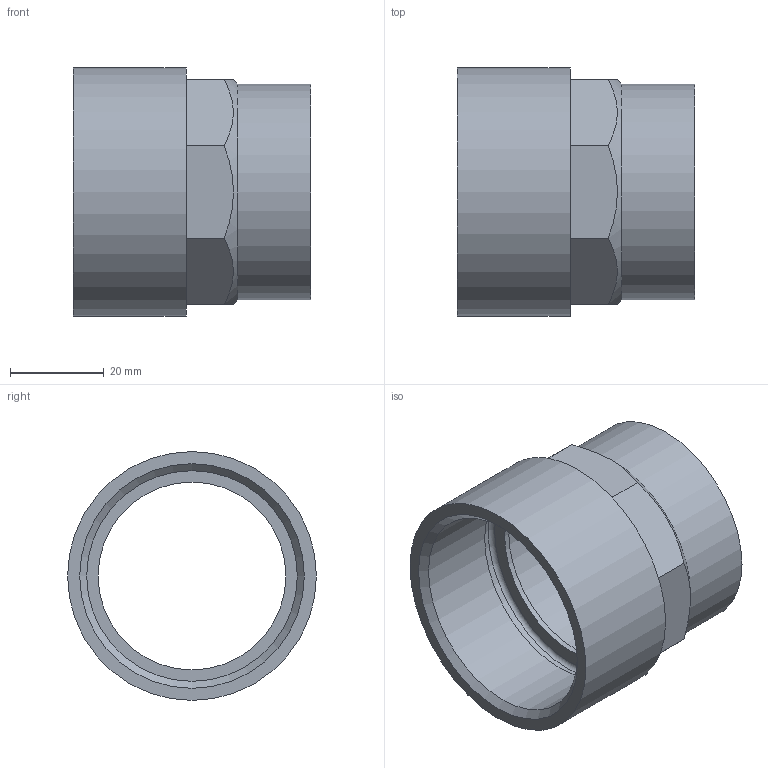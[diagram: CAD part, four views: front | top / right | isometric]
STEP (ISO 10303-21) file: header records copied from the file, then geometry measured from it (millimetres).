
FILE_DESCRIPTION(/* description */ (''),/* implementation_level */ '2;1');
FILE_NAME(/* name */ 'C:\Users\gomulka\Desktop\Nowy folder (2)\14270_42-112(2).stp',/* time_stamp */ '2017-10-19T09:27:57+02:00',/* author */ ('gomulka'),/* organization */ (''),/* preprocessor_version */ 'ST-DEVELOPER v15.6',/* originating_system */ 'Autodesk Inventor 2015',/* authorisation */ '');
FILE_SCHEMA (('AUTOMOTIVE_DESIGN { 1 0 10303 214 3 1 1 }'));
Length unit declared in the file: millimetre
Products named in the file (1): 14270_42-112(2)
Bounding box: 50.5 x 53 x 53 mm (x, y, z)
Volume: 24164.1 mm3; surface area: 16797.1 mm2
Topology: 1 solids, 1 shells, 23 faces, 56 edges, 38 vertices
Faces by surface type: plane 13, cylinder 6, cone 3, torus 1
Full cylindrical faces by diameter (mm): 40 x1, 42.15 x1, 44.845 x1, 46 x1, 48 x1, 53 x1
Entity records: 642 total; most frequent: CARTESIAN_POINT 140, ORIENTED_EDGE 92, DIRECTION 92, EDGE_CURVE 46, EDGE_LOOP 38, VERTEX_POINT 38, AXIS2_PLACEMENT_3D 38, FACE_OUTER_BOUND 23
